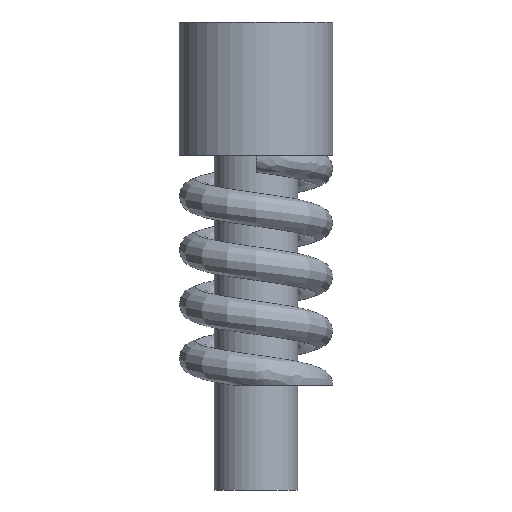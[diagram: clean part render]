
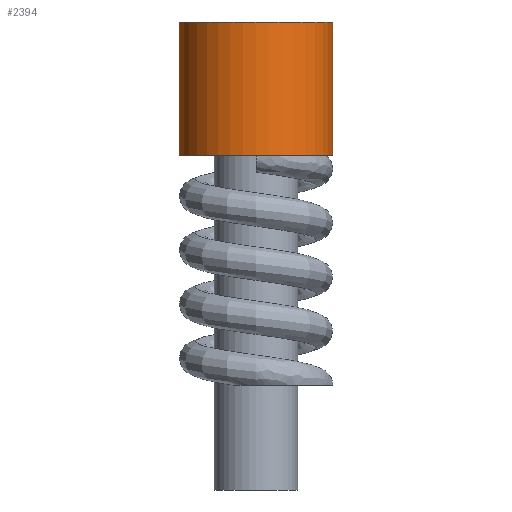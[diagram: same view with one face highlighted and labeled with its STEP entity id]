
A CAD part, front view. The second image highlights one B-rep face of the part: STEP entity #2394.
In plain terms, the highlighted cylindrical face has radius 2.3 mm (diameter 4.6 mm), a partial arc.
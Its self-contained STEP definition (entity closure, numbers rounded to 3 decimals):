
#21 = VERTEX_POINT ( 'NONE', #1857 ) ;
#168 = CIRCLE ( 'NONE', #827, 2.3 ) ;
#215 = VERTEX_POINT ( 'NONE', #2826 ) ;
#219 = CARTESIAN_POINT ( 'NONE',  ( 0., 0., 0. ) ) ;
#223 = DIRECTION ( 'NONE',  ( 0., 0., -1. ) ) ;
#403 = EDGE_CURVE ( 'NONE', #441, #21, #1958, .T. ) ;
#441 = VERTEX_POINT ( 'NONE', #1750 ) ;
#651 = AXIS2_PLACEMENT_3D ( 'NONE', #2077, #2125, #2830 ) ;
#719 = ORIENTED_EDGE ( 'NONE', *, *, #2636, .T. ) ;
#766 = EDGE_CURVE ( 'NONE', #441, #2182, #168, .T. ) ;
#781 = DIRECTION ( 'NONE',  ( 0., 0., -1. ) ) ;
#827 = AXIS2_PLACEMENT_3D ( 'NONE', #2577, #223, #1422 ) ;
#945 = CIRCLE ( 'NONE', #651, 2.3 ) ;
#1003 = ORIENTED_EDGE ( 'NONE', *, *, #1650, .T. ) ;
#1203 = CYLINDRICAL_SURFACE ( 'NONE', #1700, 2.3 ) ;
#1294 = EDGE_LOOP ( 'NONE', ( #1416, #2475, #1003, #719 ) ) ;
#1416 = ORIENTED_EDGE ( 'NONE', *, *, #403, .F. ) ;
#1422 = DIRECTION ( 'NONE',  ( -1., 0., 0. ) ) ;
#1456 = DIRECTION ( 'NONE',  ( -1., 0., 0. ) ) ;
#1650 = EDGE_CURVE ( 'NONE', #2182, #215, #1971, .T. ) ;
#1671 = VECTOR ( 'NONE', #781, 1000. ) ;
#1700 = AXIS2_PLACEMENT_3D ( 'NONE', #219, #2609, #1456 ) ;
#1748 = CARTESIAN_POINT ( 'NONE',  ( -2.3, 0., 0. ) ) ;
#1750 = CARTESIAN_POINT ( 'NONE',  ( 2.3, 0., 0. ) ) ;
#1857 = CARTESIAN_POINT ( 'NONE',  ( 2.3, 0., -3.997 ) ) ;
#1909 = CARTESIAN_POINT ( 'NONE',  ( 2.3, 0., 0. ) ) ;
#1958 = LINE ( 'NONE', #1909, #2543 ) ;
#1971 = LINE ( 'NONE', #2230, #1671 ) ;
#2077 = CARTESIAN_POINT ( 'NONE',  ( 0., 0., -3.997 ) ) ;
#2112 = FACE_OUTER_BOUND ( 'NONE', #1294, .T. ) ;
#2125 = DIRECTION ( 'NONE',  ( 0., 0., 1. ) ) ;
#2182 = VERTEX_POINT ( 'NONE', #1748 ) ;
#2230 = CARTESIAN_POINT ( 'NONE',  ( -2.3, 0., 0. ) ) ;
#2394 = ADVANCED_FACE ( 'NONE', ( #2112 ), #1203, .T. ) ;
#2475 = ORIENTED_EDGE ( 'NONE', *, *, #766, .T. ) ;
#2543 = VECTOR ( 'NONE', #2895, 1000. ) ;
#2577 = CARTESIAN_POINT ( 'NONE',  ( 0., 0., 0. ) ) ;
#2609 = DIRECTION ( 'NONE',  ( 0., 0., -1. ) ) ;
#2636 = EDGE_CURVE ( 'NONE', #215, #21, #945, .T. ) ;
#2826 = CARTESIAN_POINT ( 'NONE',  ( -2.3, 0., -3.997 ) ) ;
#2830 = DIRECTION ( 'NONE',  ( 1., 0., 0. ) ) ;
#2895 = DIRECTION ( 'NONE',  ( 0., 0., -1. ) ) ;
